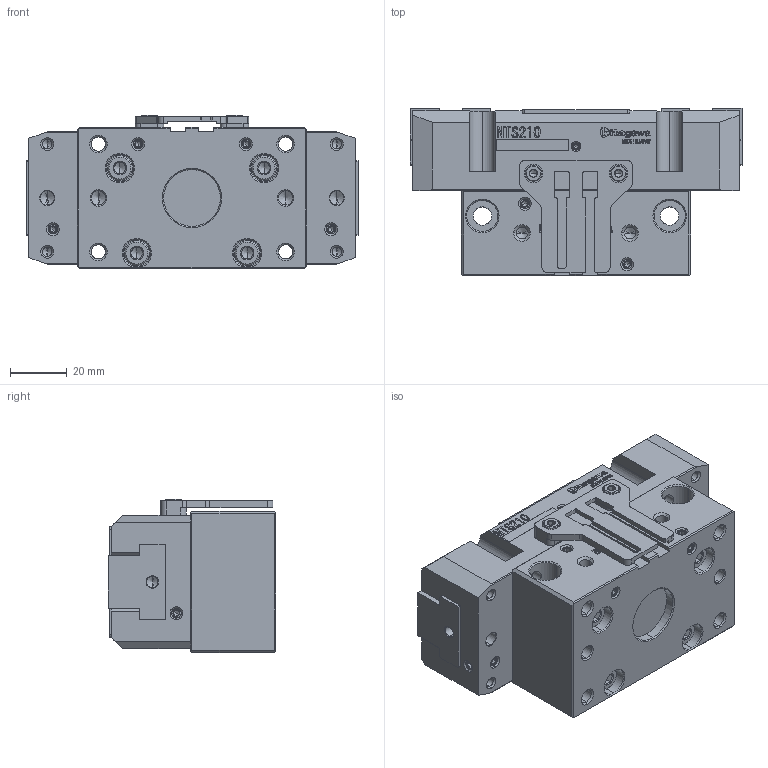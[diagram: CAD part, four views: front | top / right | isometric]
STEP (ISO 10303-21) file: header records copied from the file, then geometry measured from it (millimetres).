
FILE_DESCRIPTION (( 'STEP AP214' ), '1' );
FILE_NAME ('NTS210-UC.STEP', '2025-01-07T05:26:41', ( '' ), ( '' ), 'SwSTEP 2.0', 'SolidWorks 2022', '' );
FILE_SCHEMA (( 'AUTOMOTIVE_DESIGN' ));
Length unit declared in the file: millimetre
Products named in the file (11): MASTER JAW^HP-NTS210; S-SARA^HP-NTS210; REAR BODY^HP-NTS210; S-TOME2^HP-NTS210; BOLT2^HP-NTS210; COVER^HP-NTS210; S-TOME1^HP-NTS210; NTS210-UC; BOLT1^HP-NTS210; BRACKET^HP-NTS210; BODY^HP-NTS210
Assembly tree (26 placements, depth 2):
  NTS210-UC
    BODY^HP-NTS210
    REAR BODY^HP-NTS210
    MASTER JAW^HP-NTS210  x2
    COVER^HP-NTS210
    BRACKET^HP-NTS210
    BOLT1^HP-NTS210  x4
    BOLT2^HP-NTS210  x2
    S-TOME1^HP-NTS210  x9
    S-TOME2^HP-NTS210
    S-SARA^HP-NTS210  x4
Bounding box: 117 x 59 x 54.2 mm (x, y, z)
Volume: 244233.2 mm3; surface area: 70511.6 mm2
Topology: 26 solids, 26 shells, 1986 faces, 5353 edges, 3436 vertices
Faces by surface type: plane 1300, cone 310, cylinder 267, bspline 109
Entity records: 57189 total; most frequent: CARTESIAN_POINT 15573, ORIENTED_EDGE 8790, DIRECTION 7655, EDGE_CURVE 4395, VECTOR 3605, LINE 3605, VERTEX_POINT 2883, AXIS2_PLACEMENT_3D 2025
